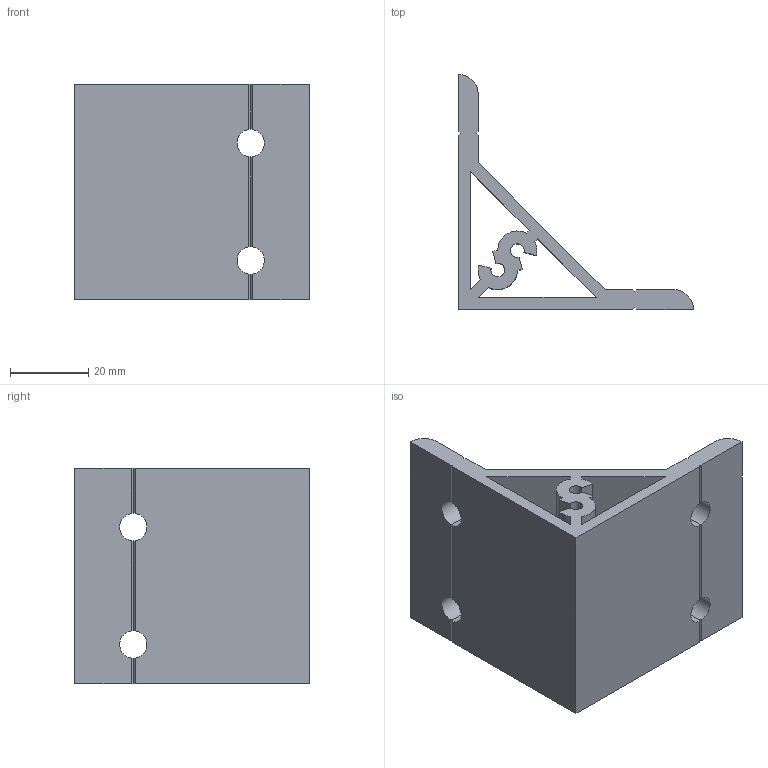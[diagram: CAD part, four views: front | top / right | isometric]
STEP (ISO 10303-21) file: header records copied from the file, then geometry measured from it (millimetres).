
FILE_DESCRIPTION (( 'STEP AP203' ), '1' );
FILE_NAME ('WL5560-6.STEP', '2024-02-17T07:22:22', ( '' ), ( '' ), 'SwSTEP 2.0', 'SolidWorks 2022', '' );
FILE_SCHEMA (( 'CONFIG_CONTROL_DESIGN' ));
Length unit declared in the file: millimetre
Products named in the file (1): WL5560-6
Bounding box: 60 x 60 x 55 mm (x, y, z)
Volume: 37027.5 mm3; surface area: 23049.1 mm2
Topology: 1 solids, 1 shells, 70 faces, 212 edges, 136 vertices
Faces by surface type: plane 47, cylinder 23
Entity records: 2455 total; most frequent: CARTESIAN_POINT 515, ORIENTED_EDGE 424, DIRECTION 368, EDGE_CURVE 212, VERTEX_POINT 136, VECTOR 134, LINE 134, AXIS2_PLACEMENT_3D 117
